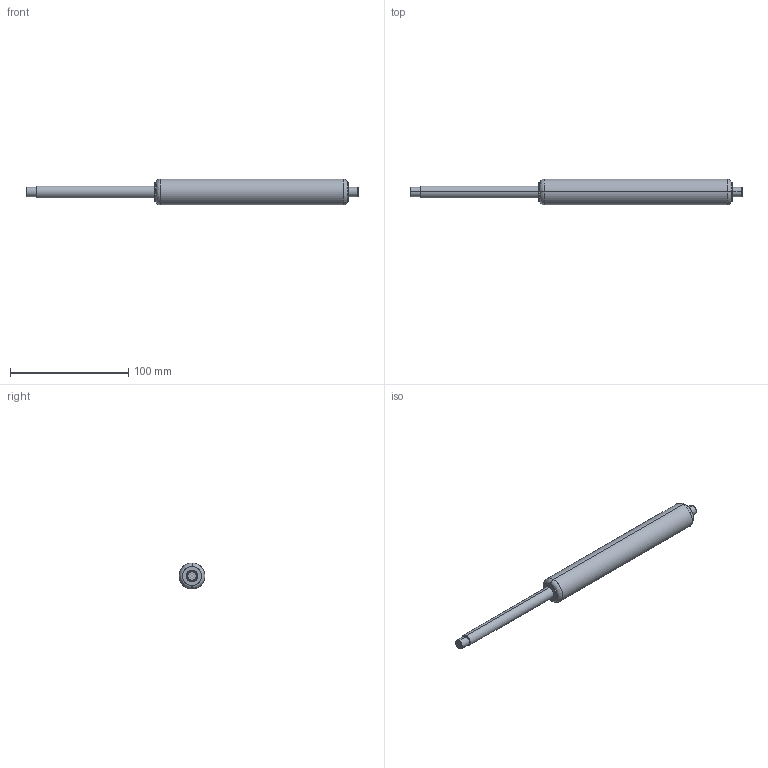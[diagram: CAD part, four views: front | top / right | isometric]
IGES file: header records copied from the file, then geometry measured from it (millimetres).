
Start section: SolidWorks IGES file using analytic representation for surfaces
Bounding box: 281 x 22 x 22 mm (x, y, z)
Surface area: 15400.3 mm2 (no closed solid volume)
Topology: 0 solids, 0 shells, 25 faces, 336 edges, 336 vertices
Faces by surface type: revolution 16, bspline 9
